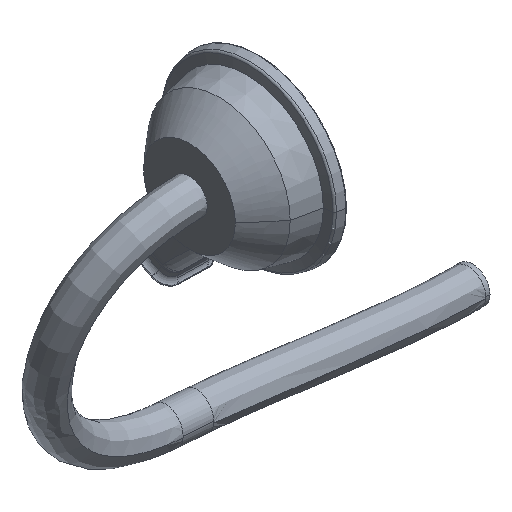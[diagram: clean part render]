
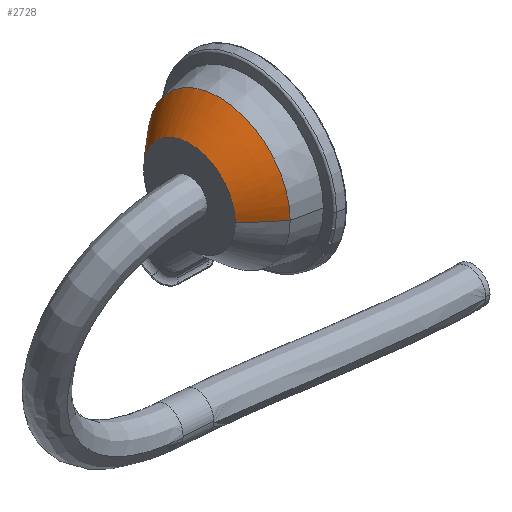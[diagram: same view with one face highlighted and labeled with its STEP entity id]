
A CAD part, isometric view. The second image highlights one B-rep face of the part: STEP entity #2728.
In plain terms, the highlighted toroidal (fillet/blend) face has major radius 495.487 mm and minor radius 759.141 mm.
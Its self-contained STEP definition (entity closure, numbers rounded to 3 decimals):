
#36 = EDGE_CURVE ( 'NONE', #776, #1774, #4139, .T. ) ;
#66 = DIRECTION ( 'NONE',  ( -1., 0., 0. ) ) ;
#80 = AXIS2_PLACEMENT_3D ( 'NONE', #1808, #3934, #4008 ) ;
#567 = ORIENTED_EDGE ( 'NONE', *, *, #6020, .F. ) ;
#646 = CARTESIAN_POINT ( 'NONE',  ( 13.5, -100.659, 2205. ) ) ;
#676 = CIRCLE ( 'NONE', #1019, 100.659 ) ;
#776 = VERTEX_POINT ( 'NONE', #6031 ) ;
#1019 = AXIS2_PLACEMENT_3D ( 'NONE', #4847, #2749, #3220 ) ;
#1075 = CARTESIAN_POINT ( 'NONE',  ( 483.505, -495.487, 2205. ) ) ;
#1297 = DIRECTION ( 'NONE',  ( 0., 0., -1. ) ) ;
#1774 = VERTEX_POINT ( 'NONE', #6061 ) ;
#1808 = CARTESIAN_POINT ( 'NONE',  ( 483.505, 0., 2205. ) ) ;
#1838 = CIRCLE ( 'NONE', #6704, 65. ) ;
#2485 = EDGE_LOOP ( 'NONE', ( #5793, #7159, #5927, #567 ) ) ;
#2728 = ADVANCED_FACE ( 'NONE', ( #6309 ), #4936, .T. ) ;
#2749 = DIRECTION ( 'NONE',  ( 1., 0., 0. ) ) ;
#3220 = DIRECTION ( 'NONE',  ( 0., 1., 0. ) ) ;
#3283 = DIRECTION ( 'NONE',  ( 0., 0., 1. ) ) ;
#3892 = DIRECTION ( 'NONE',  ( 0., -1., 0. ) ) ;
#3934 = DIRECTION ( 'NONE',  ( -1., 0., 0. ) ) ;
#4008 = DIRECTION ( 'NONE',  ( 0., -1., 0. ) ) ;
#4044 = CARTESIAN_POINT ( 'NONE',  ( 483.505, 495.487, 2205. ) ) ;
#4139 = CIRCLE ( 'NONE', #5420, 759.141 ) ;
#4265 = AXIS2_PLACEMENT_3D ( 'NONE', #4044, #1297, #5170 ) ;
#4321 = VERTEX_POINT ( 'NONE', #4649 ) ;
#4649 = CARTESIAN_POINT ( 'NONE',  ( -28.5, -65., 2205. ) ) ;
#4847 = CARTESIAN_POINT ( 'NONE',  ( 13.5, 0., 2205. ) ) ;
#4932 = VERTEX_POINT ( 'NONE', #646 ) ;
#4936 = TOROIDAL_SURFACE ( 'NONE', #80, -495.487, 759.141 ) ;
#4953 = EDGE_CURVE ( 'NONE', #4321, #1774, #1838, .T. ) ;
#5170 = DIRECTION ( 'NONE',  ( 0., 1., 0. ) ) ;
#5420 = AXIS2_PLACEMENT_3D ( 'NONE', #1075, #3283, #3892 ) ;
#5476 = EDGE_CURVE ( 'NONE', #776, #4932, #676, .T. ) ;
#5793 = ORIENTED_EDGE ( 'NONE', *, *, #5476, .F. ) ;
#5927 = ORIENTED_EDGE ( 'NONE', *, *, #4953, .F. ) ;
#6020 = EDGE_CURVE ( 'NONE', #4932, #4321, #6588, .T. ) ;
#6031 = CARTESIAN_POINT ( 'NONE',  ( 13.5, 100.659, 2205. ) ) ;
#6061 = CARTESIAN_POINT ( 'NONE',  ( -28.5, 65., 2205. ) ) ;
#6309 = FACE_OUTER_BOUND ( 'NONE', #2485, .T. ) ;
#6588 = CIRCLE ( 'NONE', #4265, 759.141 ) ;
#6704 = AXIS2_PLACEMENT_3D ( 'NONE', #6751, #66, #6715 ) ;
#6715 = DIRECTION ( 'NONE',  ( 0., 0., -1. ) ) ;
#6751 = CARTESIAN_POINT ( 'NONE',  ( -28.5, 0., 2205. ) ) ;
#7159 = ORIENTED_EDGE ( 'NONE', *, *, #36, .T. ) ;
